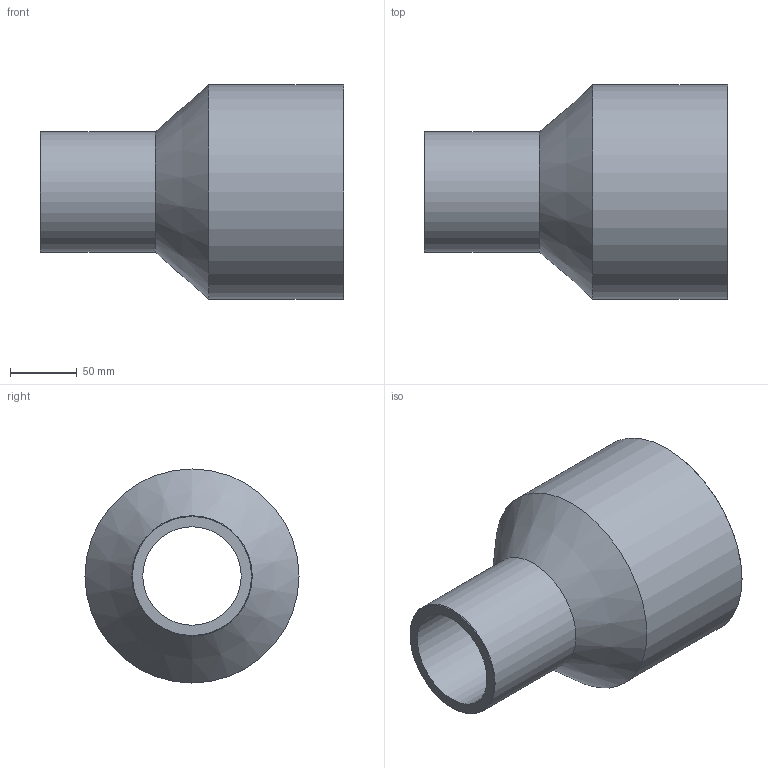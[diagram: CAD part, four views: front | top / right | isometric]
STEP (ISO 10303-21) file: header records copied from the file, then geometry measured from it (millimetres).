
FILE_DESCRIPTION(/* description */ ('Unknown'),/* implementation_level */ '2;1');
FILE_NAME(/* name */ 'RP160090C',/* time_stamp */ '2021-09-17T15:15:45+02:00',/* author */ ('Unknown'),/* organization */ ('Unknown'),/* preprocessor_version */ 'ST-DEVELOPER v16.7',/* originating_system */ 'Solid Edge',/* authorisation */ 'Unknown');
FILE_SCHEMA (('AUTOMOTIVE_DESIGN {1 0 10303 214 3 1 1}'));
Length unit declared in the file: millimetre
Products named in the file (1): RP160090C
Bounding box: 227 x 160 x 160 mm (x, y, z)
Volume: 1109370.2 mm3; surface area: 179911.9 mm2
Topology: 1 solids, 1 shells, 10 faces, 19 edges, 11 vertices
Faces by surface type: cylinder 4, cone 4, plane 2
Full cylindrical faces by diameter (mm): 73.6 x1, 90 x1, 130.8 x1, 160 x1
Entity records: 238 total; most frequent: DIRECTION 42, CARTESIAN_POINT 31, AXIS2_PLACEMENT_3D 21, ORIENTED_EDGE 20, EDGE_LOOP 20, FACE_BOUND 20, EDGE_CURVE 10, VERTEX_POINT 10
